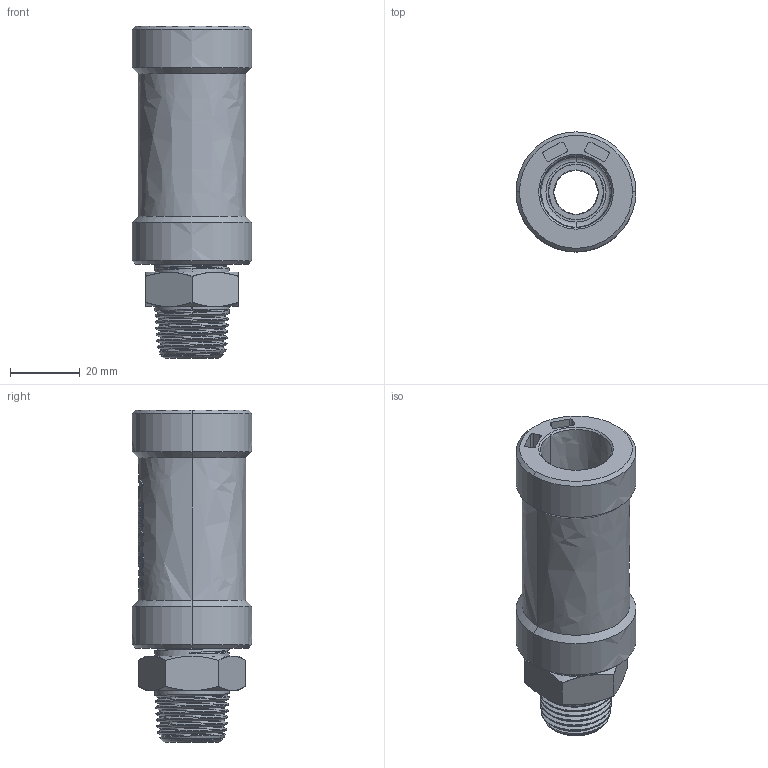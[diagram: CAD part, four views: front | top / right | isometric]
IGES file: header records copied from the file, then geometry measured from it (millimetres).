
Start section:  PTC IGES file: mun_d20_1-2_01.igs
Global section: file name: mun_d20_1-2_01.igs; native system: Pro/ENGINEER by Parametric Technology Corporation; preprocessor: 2011490; author: mtunjic; organization: Unknown; date: 20130823.153321; units: millimetre
Bounding box: 34.5 x 34.5 x 95.49 mm (x, y, z)
Surface area: 17380.5 mm2 (no closed solid volume)
Topology: 0 solids, 0 shells, 241 faces, 1222 edges, 1222 vertices
Faces by surface type: bspline 241
